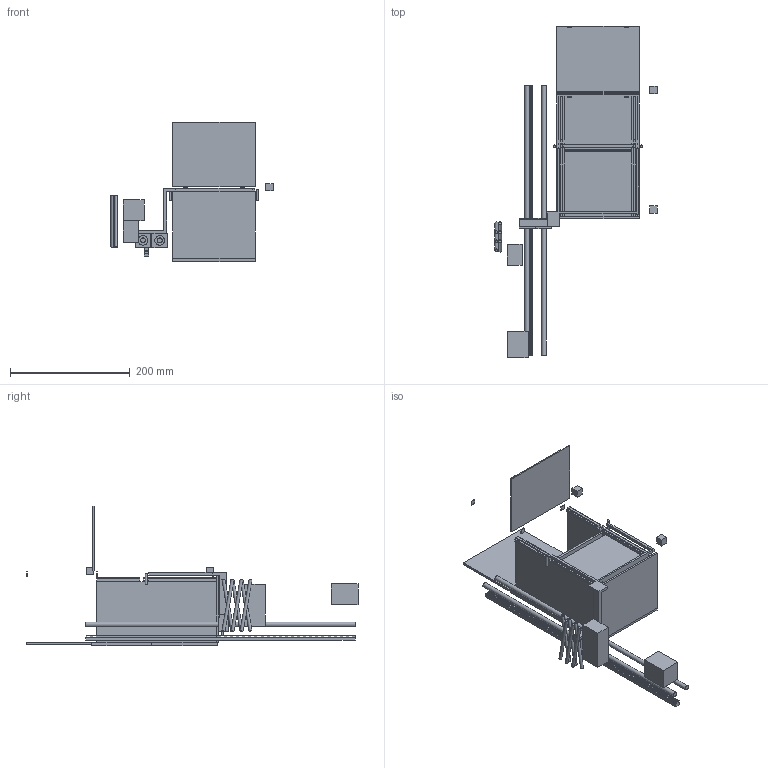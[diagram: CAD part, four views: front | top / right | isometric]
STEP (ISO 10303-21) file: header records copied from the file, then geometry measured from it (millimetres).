
FILE_DESCRIPTION(('FreeCAD Model'),'2;1');
FILE_NAME('Open CASCADE Shape Model','2026-10-19T11:26:59',('FreeCAD'),( 'FreeCAD'),'Open CASCADE STEP processor 7.8','FreeCAD','Unknown');
FILE_SCHEMA(('AUTOMOTIVE_DESIGN { 1 0 10303 214 1 1 1 1 }'));
Length unit declared in the file: millimetre
Products named in the file (1): Open CASCADE STEP translator 7.8 17
Bounding box: 271 x 555 x 234 mm (x, y, z)
Volume: 1969579.4 mm3; surface area: 475764.6 mm2
Topology: 33 solids, 33 shells, 1164 faces, 3291 edges, 2194 vertices
Faces by surface type: plane 1148, cylinder 16
Full cylindrical faces by diameter (mm): 4 x2, 5 x6, 8 x2, 8.5 x2, 16 x4
Entity records: 36869 total; most frequent: CARTESIAN_POINT 6650, ORIENTED_EDGE 6582, DIRECTION 5653, EDGE_CURVE 3291, LINE 3259, VECTOR 3259, VERTEX_POINT 2194, AXIS2_PLACEMENT_3D 1197
